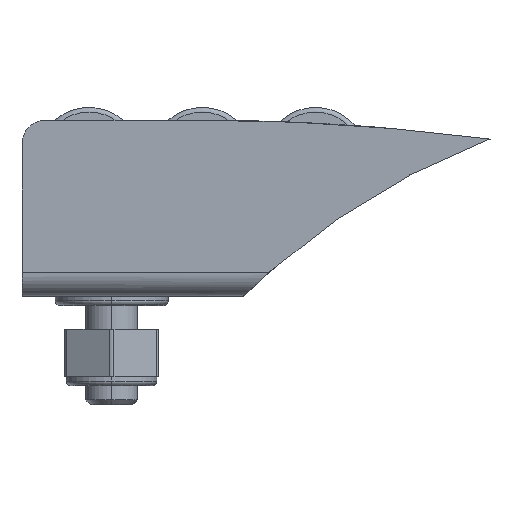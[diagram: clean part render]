
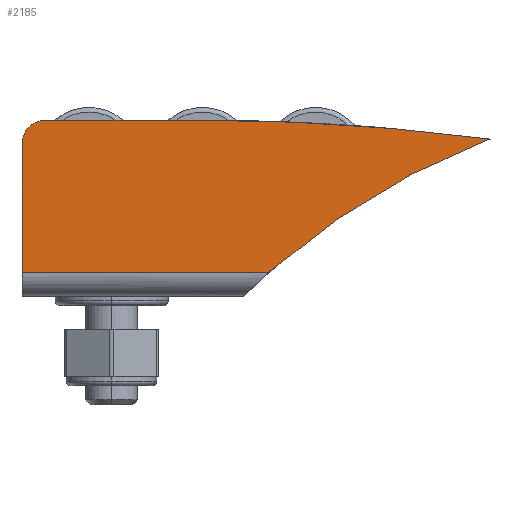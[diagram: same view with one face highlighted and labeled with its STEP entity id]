
A CAD part, left-side view. The second image highlights one B-rep face of the part: STEP entity #2185.
In plain terms, the highlighted planar face has unit normal (-1, 0, 0).
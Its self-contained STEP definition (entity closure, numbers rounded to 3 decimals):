
#539=CARTESIAN_POINT('Vertex',(-57.5,12.35,10.)) ;
#542=CARTESIAN_POINT('Axis2P3D Location',(-57.5,12.35,-231.25)) ;
#546=CARTESIAN_POINT('Vertex',(-57.5,-18.65,8.)) ;
#825=CARTESIAN_POINT('Axis2P3D Location',(-57.5,-45.068,-62.193)) ;
#829=CARTESIAN_POINT('Vertex',(-57.5,4.773,-6.15)) ;
#2121=CARTESIAN_POINT('Vertex',(-57.5,28.45,10.)) ;
#2124=CARTESIAN_POINT('Line Origine',(-57.5,20.4,10.)) ;
#2153=CARTESIAN_POINT('Axis2P3D Location',(-57.5,0.,0.)) ;
#2158=CARTESIAN_POINT('Axis2P3D Location',(-57.5,28.45,7.5)) ;
#2162=CARTESIAN_POINT('Vertex',(-57.5,30.95,7.5)) ;
#2165=CARTESIAN_POINT('Line Origine',(-57.5,30.95,0.675)) ;
#2169=CARTESIAN_POINT('Vertex',(-57.5,30.95,-6.15)) ;
#2172=CARTESIAN_POINT('Line Origine',(-57.5,17.862,-6.15)) ;
#543=DIRECTION('Axis2P3D Direction',(1.,0.,0.)) ;
#826=DIRECTION('Axis2P3D Direction',(1.,0.,0.)) ;
#2125=DIRECTION('Vector Direction',(0.,1.,0.)) ;
#2154=DIRECTION('Axis2P3D Direction',(1.,0.,0.)) ;
#2155=DIRECTION('Axis2P3D XDirection',(0.,1.,0.)) ;
#2159=DIRECTION('Axis2P3D Direction',(1.,0.,0.)) ;
#2166=DIRECTION('Vector Direction',(0.,0.,-1.)) ;
#2173=DIRECTION('Vector Direction',(0.,-1.,0.)) ;
#544=AXIS2_PLACEMENT_3D('Circle Axis2P3D',#542,#543,$) ;
#827=AXIS2_PLACEMENT_3D('Circle Axis2P3D',#825,#826,$) ;
#2156=AXIS2_PLACEMENT_3D('Plane Axis2P3D',#2153,#2154,#2155) ;
#2160=AXIS2_PLACEMENT_3D('Circle Axis2P3D',#2158,#2159,$) ;
#2178=ORIENTED_EDGE('',*,*,#2164,.F.) ;
#2179=ORIENTED_EDGE('',*,*,#2171,.F.) ;
#2180=ORIENTED_EDGE('',*,*,#2176,.F.) ;
#2181=ORIENTED_EDGE('',*,*,#831,.T.) ;
#2182=ORIENTED_EDGE('',*,*,#548,.F.) ;
#2183=ORIENTED_EDGE('',*,*,#2128,.F.) ;
#2126=VECTOR('Line Direction',#2125,1.) ;
#2167=VECTOR('Line Direction',#2166,1.) ;
#2174=VECTOR('Line Direction',#2173,1.) ;
#2185=ADVANCED_FACE('PartBody',(#2184),#2157,.F.) ;
#545=CIRCLE('generated circle',#544,241.25) ;
#828=CIRCLE('generated circle',#827,75.) ;
#2161=CIRCLE('generated circle',#2160,2.5) ;
#548=EDGE_CURVE('',#540,#547,#545,.T.) ;
#831=EDGE_CURVE('',#830,#547,#828,.T.) ;
#2128=EDGE_CURVE('',#2122,#540,#2127,.F.) ;
#2164=EDGE_CURVE('',#2163,#2122,#2161,.T.) ;
#2171=EDGE_CURVE('',#2170,#2163,#2168,.F.) ;
#2176=EDGE_CURVE('',#830,#2170,#2175,.F.) ;
#2177=EDGE_LOOP('',(#2178,#2179,#2180,#2181,#2182,#2183)) ;
#2184=FACE_OUTER_BOUND('',#2177,.T.) ;
#2127=LINE('Line',#2124,#2126) ;
#2168=LINE('Line',#2165,#2167) ;
#2175=LINE('Line',#2172,#2174) ;
#2157=PLANE('',#2156) ;
#540=VERTEX_POINT('',#539) ;
#547=VERTEX_POINT('',#546) ;
#830=VERTEX_POINT('',#829) ;
#2122=VERTEX_POINT('',#2121) ;
#2163=VERTEX_POINT('',#2162) ;
#2170=VERTEX_POINT('',#2169) ;
